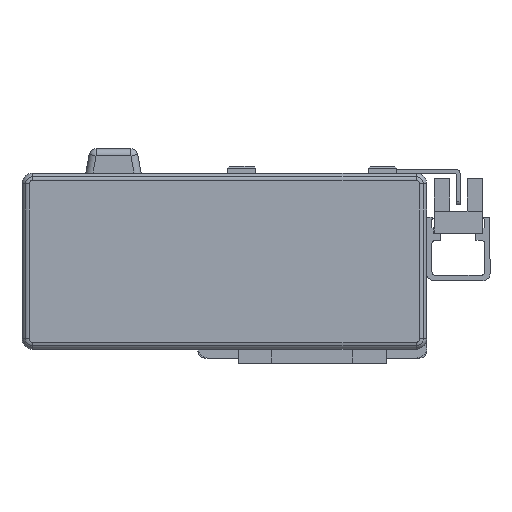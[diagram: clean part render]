
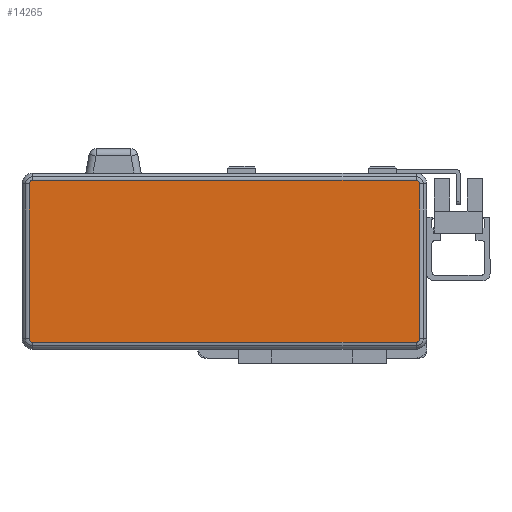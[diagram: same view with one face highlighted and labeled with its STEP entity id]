
A CAD part, left-side view. The second image highlights one B-rep face of the part: STEP entity #14265.
In plain terms, the highlighted planar face has unit normal (-1, 0, 0) as drawn and (0, 0, 1) by its records, which use the part's own axes.
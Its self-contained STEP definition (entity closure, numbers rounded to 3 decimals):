
#999 = VERTEX_POINT ( 'NONE', #12165 ) ;
#2377 = VERTEX_POINT ( 'NONE', #17050 ) ;
#2953 = DIRECTION ( 'NONE',  ( 0., 0., -1. ) ) ;
#3222 = EDGE_LOOP ( 'NONE', ( #13133, #13249, #13297, #13317, #13564, #13749, #13800, #13828 ) ) ;
#3917 = VERTEX_POINT ( 'NONE', #14419 ) ;
#4481 = AXIS2_PLACEMENT_3D ( 'NONE', #20165, #7177, #22359 ) ;
#4528 = AXIS2_PLACEMENT_3D ( 'NONE', #23893, #11379, #25723 ) ;
#4673 = AXIS2_PLACEMENT_3D ( 'NONE', #6512, #21778, #8813 ) ;
#5006 = CARTESIAN_POINT ( 'NONE',  ( 55.5, 0., 40. ) ) ;
#5072 = CARTESIAN_POINT ( 'NONE',  ( -54.5, 23., 40. ) ) ;
#5147 = VERTEX_POINT ( 'NONE', #5735 ) ;
#5447 = AXIS2_PLACEMENT_3D ( 'NONE', #9232, #23990, #11484 ) ;
#5566 = FACE_OUTER_BOUND ( 'NONE', #3222, .T. ) ;
#5735 = CARTESIAN_POINT ( 'NONE',  ( 54.5, 23., 40. ) ) ;
#6512 = CARTESIAN_POINT ( 'NONE',  ( 54.5, 22., 40. ) ) ;
#6815 = CARTESIAN_POINT ( 'NONE',  ( 0., -23., 40. ) ) ;
#7177 = DIRECTION ( 'NONE',  ( 0., 0., 1. ) ) ;
#7259 = CARTESIAN_POINT ( 'NONE',  ( 55.5, 22., 40. ) ) ;
#7660 = CARTESIAN_POINT ( 'NONE',  ( 0., 0., 40. ) ) ;
#8813 = DIRECTION ( 'NONE',  ( -1., 0., 0. ) ) ;
#9210 = DIRECTION ( 'NONE',  ( 0., -1., 0. ) ) ;
#9232 = CARTESIAN_POINT ( 'NONE',  ( 54.5, -22., 40. ) ) ;
#10487 = AXIS2_PLACEMENT_3D ( 'NONE', #7660, #2953, #18587 ) ;
#11307 = DIRECTION ( 'NONE',  ( 1., 0., 0. ) ) ;
#11314 = VERTEX_POINT ( 'NONE', #7259 ) ;
#11364 = VERTEX_POINT ( 'NONE', #5072 ) ;
#11379 = DIRECTION ( 'NONE',  ( 0., 0., 1. ) ) ;
#11484 = DIRECTION ( 'NONE',  ( -1., 0., 0. ) ) ;
#12165 = CARTESIAN_POINT ( 'NONE',  ( 54.5, -23., 40. ) ) ;
#13133 = ORIENTED_EDGE ( 'NONE', *, *, #18703, .T. ) ;
#13249 = ORIENTED_EDGE ( 'NONE', *, *, #18707, .T. ) ;
#13297 = ORIENTED_EDGE ( 'NONE', *, *, #18834, .T. ) ;
#13317 = ORIENTED_EDGE ( 'NONE', *, *, #19155, .T. ) ;
#13564 = ORIENTED_EDGE ( 'NONE', *, *, #19187, .T. ) ;
#13749 = ORIENTED_EDGE ( 'NONE', *, *, #19223, .T. ) ;
#13798 = CARTESIAN_POINT ( 'NONE',  ( -55.5, -22., 40. ) ) ;
#13800 = ORIENTED_EDGE ( 'NONE', *, *, #19257, .T. ) ;
#13828 = ORIENTED_EDGE ( 'NONE', *, *, #19334, .T. ) ;
#14265 = ADVANCED_FACE ( 'NONE', ( #5566 ), #16437, .F. ) ;
#14371 = CIRCLE ( 'NONE', #4481, 1. ) ;
#14419 = CARTESIAN_POINT ( 'NONE',  ( -54.5, -23., 40. ) ) ;
#14704 = LINE ( 'NONE', #19872, #14880 ) ;
#14864 = CIRCLE ( 'NONE', #4528, 1. ) ;
#14880 = VECTOR ( 'NONE', #9210, 1000. ) ;
#14885 = VECTOR ( 'NONE', #27480, 1000. ) ;
#15047 = CIRCLE ( 'NONE', #4673, 1. ) ;
#15279 = LINE ( 'NONE', #25567, #14885 ) ;
#15323 = VERTEX_POINT ( 'NONE', #25199 ) ;
#16229 = VECTOR ( 'NONE', #22463, 1000. ) ;
#16437 = PLANE ( 'NONE',  #10487 ) ;
#16570 = LINE ( 'NONE', #5006, #16229 ) ;
#16664 = CIRCLE ( 'NONE', #5447, 1. ) ;
#16749 = VECTOR ( 'NONE', #11307, 1000. ) ;
#16773 = LINE ( 'NONE', #6815, #16749 ) ;
#17050 = CARTESIAN_POINT ( 'NONE',  ( -55.5, 22., 40. ) ) ;
#17889 = VERTEX_POINT ( 'NONE', #13798 ) ;
#18587 = DIRECTION ( 'NONE',  ( -1., 0., 0. ) ) ;
#18703 = EDGE_CURVE ( 'NONE', #3917, #999, #16773, .T. ) ;
#18707 = EDGE_CURVE ( 'NONE', #999, #15323, #16664, .T. ) ;
#18834 = EDGE_CURVE ( 'NONE', #15323, #11314, #16570, .T. ) ;
#19155 = EDGE_CURVE ( 'NONE', #11314, #5147, #15047, .T. ) ;
#19187 = EDGE_CURVE ( 'NONE', #5147, #11364, #15279, .T. ) ;
#19223 = EDGE_CURVE ( 'NONE', #11364, #2377, #14864, .T. ) ;
#19257 = EDGE_CURVE ( 'NONE', #2377, #17889, #14704, .T. ) ;
#19334 = EDGE_CURVE ( 'NONE', #17889, #3917, #14371, .T. ) ;
#19872 = CARTESIAN_POINT ( 'NONE',  ( -55.5, 0., 40. ) ) ;
#20165 = CARTESIAN_POINT ( 'NONE',  ( -54.5, -22., 40. ) ) ;
#21778 = DIRECTION ( 'NONE',  ( 0., 0., 1. ) ) ;
#22359 = DIRECTION ( 'NONE',  ( -1., 0., 0. ) ) ;
#22463 = DIRECTION ( 'NONE',  ( 0., 1., 0. ) ) ;
#23893 = CARTESIAN_POINT ( 'NONE',  ( -54.5, 22., 40. ) ) ;
#23990 = DIRECTION ( 'NONE',  ( 0., 0., 1. ) ) ;
#25199 = CARTESIAN_POINT ( 'NONE',  ( 55.5, -22., 40. ) ) ;
#25567 = CARTESIAN_POINT ( 'NONE',  ( 0., 23., 40. ) ) ;
#25723 = DIRECTION ( 'NONE',  ( -1., 0., 0. ) ) ;
#27480 = DIRECTION ( 'NONE',  ( -1., 0., 0. ) ) ;
